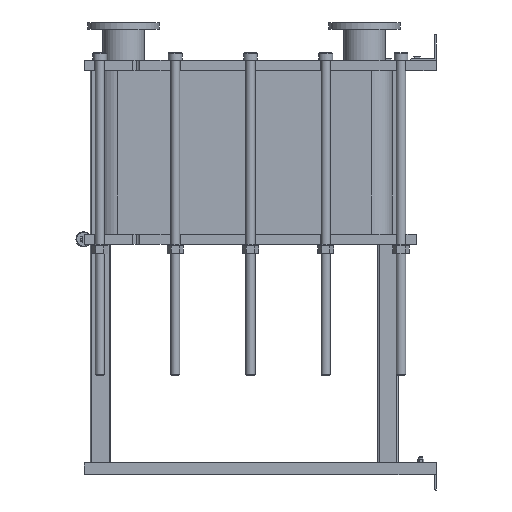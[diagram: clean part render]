
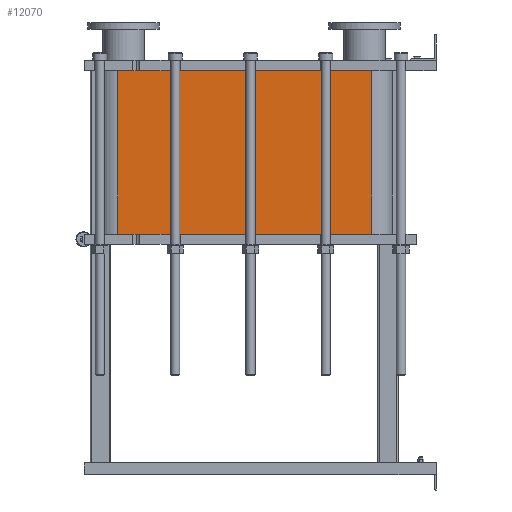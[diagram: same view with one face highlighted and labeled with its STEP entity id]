
A CAD part, left-side view. The second image highlights one B-rep face of the part: STEP entity #12070.
In plain terms, the highlighted planar face has unit normal (-1, 0, 0).
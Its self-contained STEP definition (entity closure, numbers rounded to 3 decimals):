
#1064=LINE('',#21140,#2164);
#1065=LINE('',#21144,#2165);
#1066=LINE('',#21146,#2166);
#1067=LINE('',#21147,#2167);
#2164=VECTOR('',#15790,10.);
#2165=VECTOR('',#15795,10.);
#2166=VECTOR('',#15796,10.);
#2167=VECTOR('',#15797,10.);
#3304=FACE_OUTER_BOUND('',#4091,.T.);
#4091=EDGE_LOOP('',(#9793,#9794,#9795,#9796));
#5677=VERTEX_POINT('',#21137);
#5678=VERTEX_POINT('',#21139);
#5679=VERTEX_POINT('',#21143);
#5680=VERTEX_POINT('',#21145);
#7118=EDGE_CURVE('',#5678,#5677,#1064,.T.);
#7120=EDGE_CURVE('',#5677,#5679,#1065,.T.);
#7121=EDGE_CURVE('',#5680,#5679,#1066,.T.);
#7122=EDGE_CURVE('',#5680,#5678,#1067,.T.);
#9793=ORIENTED_EDGE('',*,*,#7120,.T.);
#9794=ORIENTED_EDGE('',*,*,#7121,.F.);
#9795=ORIENTED_EDGE('',*,*,#7122,.T.);
#9796=ORIENTED_EDGE('',*,*,#7118,.T.);
#11441=PLANE('',#13191);
#12070=ADVANCED_FACE('',(#3304),#11441,.T.);
#13191=AXIS2_PLACEMENT_3D('',#21142,#15793,#15794);
#15790=DIRECTION('',(0.,0.,-1.));
#15793=DIRECTION('center_axis',(-1.,0.,0.));
#15794=DIRECTION('ref_axis',(0.,1.,0.));
#15795=DIRECTION('',(0.,-1.,0.));
#15796=DIRECTION('',(0.,0.,-1.));
#15797=DIRECTION('',(0.,1.,0.));
#21137=CARTESIAN_POINT('',(-248.152,1243.818,-638.25));
#21139=CARTESIAN_POINT('',(-248.152,1243.818,0.));
#21140=CARTESIAN_POINT('',(-248.152,1243.818,0.));
#21142=CARTESIAN_POINT('Origin',(-248.152,251.818,0.));
#21143=CARTESIAN_POINT('',(-248.152,251.818,-638.25));
#21144=CARTESIAN_POINT('',(-248.152,499.818,-638.25));
#21145=CARTESIAN_POINT('',(-248.152,251.818,0.));
#21146=CARTESIAN_POINT('',(-248.152,251.818,0.));
#21147=CARTESIAN_POINT('',(-248.152,251.818,0.));
